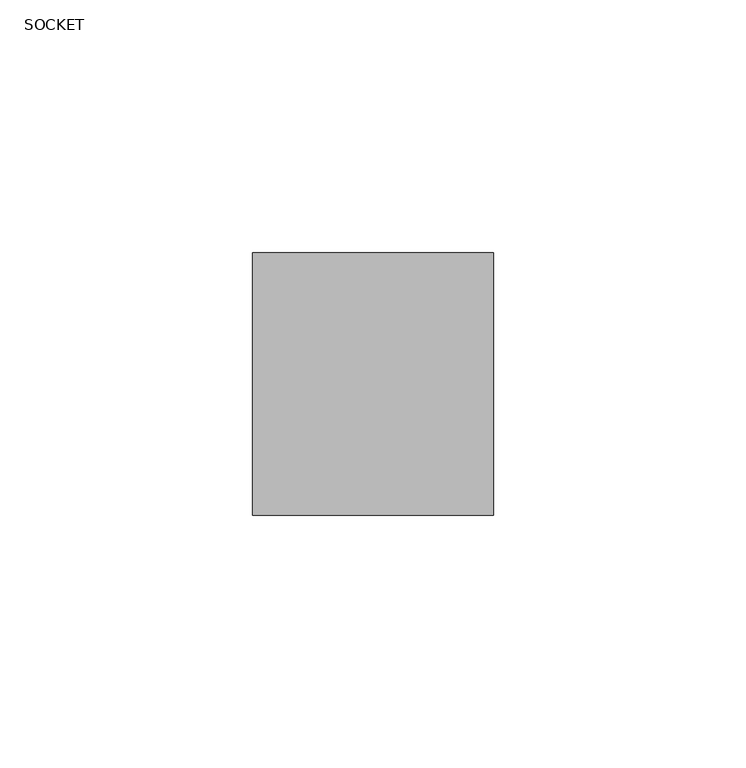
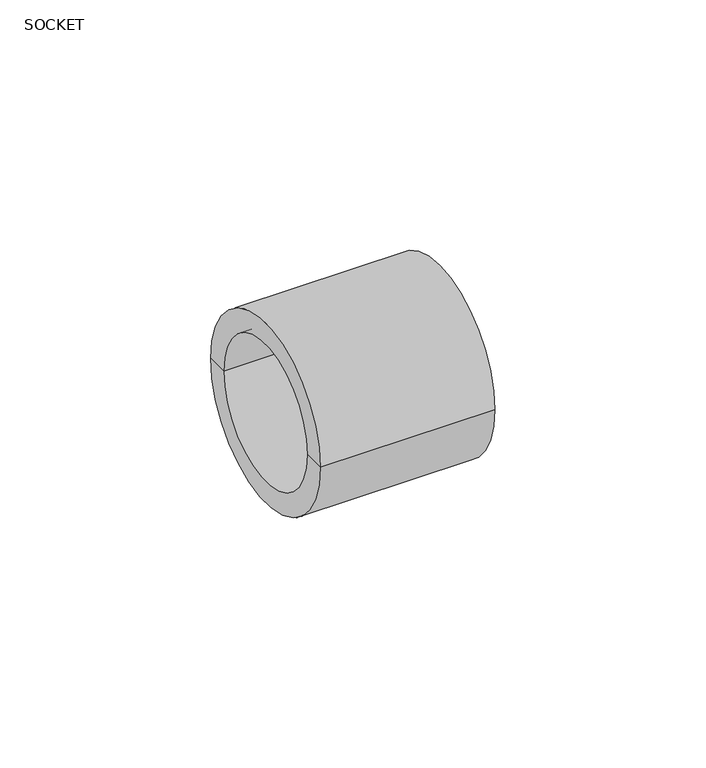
"""IFC4 building model written with IfcOpenShell, lengths in millimetres: pipe fitting geometry, Aquatherm - Coupling Socket : SOCKET."""

from ifc_helpers import new_model, si_unit, frame, origin, place, context, project, spatial, polyline, circle_curve, source, transform, mapped, element, save
from ifc_brep_helpers import plane_surface, cylinder_surface, revolved_surface, advanced_brep


def socket_037de072(model_context):
    return source(origin(), model_context, "Body", "AdvancedBrep", [
        advanced_brep(
        [(-23.876, -19.939, 0.0), (-23.876, 19.939, 0.0), (-23.876, 26.035, 0.0), (-23.876, -26.035, 0.0), (-3.302, -19.939, 0.0), (-3.302, 19.939, 0.0), (-3.302, -13.335, 0.0), (-3.302, 13.335, 0.0), (3.302, -13.335, 0.0), (3.302, 13.335, 0.0), (3.302, -19.939, 0.0), (3.302, 19.939, 0.0), (23.876, -19.939, 0.0), (23.876, 19.939, 0.0), (23.876, -26.035, 0.0), (23.876, 26.035, 0.0)],
        [
            (0, 1, circle_curve(frame((-23.876, 0.0, 0.0), z_axis=(1.0, 0.0, 0.0), x_axis=(0.0, 1.0, 0.0)), 19.939)),
            (1, 2),
            (2, 3, circle_curve(frame((-23.876, 0.0, 0.0), z_axis=(-1.0, 0.0, 0.0), x_axis=(0.0, 1.0, 0.0)), 26.035)),
            (3, 0),
            (1, 0, circle_curve(frame((-23.876, 0.0, 0.0), z_axis=(1.0, 0.0, 0.0), x_axis=(0.0, 1.0, 0.0)), 19.939)),
            (3, 2, circle_curve(frame((-23.876, 0.0, 0.0), z_axis=(-1.0, 0.0, 0.0), x_axis=(0.0, 1.0, 0.0)), 26.035)),
            (4, 5, circle_curve(frame((-3.302, 0.0, 0.0), z_axis=(1.0, 0.0, 0.0), x_axis=(0.0, 1.0, 0.0)), 19.939)),
            (5, 1),
            (0, 4),
            (5, 4, circle_curve(frame((-3.302, 0.0, 0.0), z_axis=(1.0, 0.0, 0.0), x_axis=(0.0, 1.0, 0.0)), 19.939)),
            (6, 7, circle_curve(frame((-3.302, 0.0, 0.0), z_axis=(1.0, 0.0, 0.0), x_axis=(0.0, 1.0, 0.0)), 13.335)),
            (7, 5),
            (4, 6),
            (7, 6, circle_curve(frame((-3.302, 0.0, 0.0), z_axis=(1.0, 0.0, 0.0), x_axis=(0.0, 1.0, 0.0)), 13.335)),
            (8, 9, circle_curve(frame((3.302, 0.0, 0.0), z_axis=(1.0, 0.0, 0.0), x_axis=(0.0, 1.0, 0.0)), 13.335)),
            (9, 7),
            (6, 8),
            (9, 8, circle_curve(frame((3.302, 0.0, 0.0), z_axis=(1.0, 0.0, 0.0), x_axis=(0.0, 1.0, 0.0)), 13.335)),
            (10, 11, circle_curve(frame((3.302, 0.0, 0.0), z_axis=(1.0, 0.0, 0.0), x_axis=(0.0, 1.0, 0.0)), 19.939)),
            (11, 9),
            (8, 10),
            (11, 10, circle_curve(frame((3.302, 0.0, 0.0), z_axis=(1.0, 0.0, 0.0), x_axis=(0.0, 1.0, 0.0)), 19.939)),
            (12, 13, circle_curve(frame((23.876, 0.0, 0.0), z_axis=(1.0, 0.0, 0.0), x_axis=(0.0, 1.0, 0.0)), 19.939)),
            (13, 11),
            (10, 12),
            (13, 12, circle_curve(frame((23.876, 0.0, 0.0), z_axis=(1.0, 0.0, 0.0), x_axis=(0.0, 1.0, 0.0)), 19.939)),
            (14, 15, circle_curve(frame((23.876, 0.0, 0.0), z_axis=(1.0, 0.0, 0.0), x_axis=(0.0, 1.0, 0.0)), 26.035)),
            (15, 13),
            (12, 14),
            (15, 14, circle_curve(frame((23.876, 0.0, 0.0), z_axis=(1.0, 0.0, 0.0), x_axis=(0.0, 1.0, 0.0)), 26.035)),
            (2, 15),
            (14, 3),
        ],
        [
            plane_surface(frame((-23.876, 0.0, 0.0), z_axis=(-1.0, 0.0, 0.0), x_axis=(0.0, 1.0, 0.0))),
            revolved_surface(polyline([(-23.876, 19.939, 0.0), (-3.3019999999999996, 19.939, 0.0)]), (-40.1744022, 0.0, 0.0), (-1.0, 0.0, 0.0)),
            plane_surface(frame((-3.302, 0.0, 0.0), z_axis=(-1.0, 0.0, 0.0), x_axis=(0.0, 1.0, 0.0))),
            revolved_surface(polyline([(-3.3019999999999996, 13.335, 0.0), (3.3019999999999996, 13.335, 0.0)]), (-40.1744022, 0.0, 0.0), (-1.0, 0.0, 0.0)),
            plane_surface(frame((3.302, 0.0, 0.0), z_axis=(1.0, 0.0, 0.0), x_axis=(0.0, 1.0, 0.0))),
            revolved_surface(polyline([(3.3019999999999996, 19.939, 0.0), (23.876000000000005, 19.939, 0.0)]), (-40.1744022, 0.0, 0.0), (-1.0, 0.0, 0.0)),
            plane_surface(frame((23.876, 0.0, 0.0), z_axis=(1.0, 0.0, 0.0), x_axis=(0.0, 1.0, 0.0))),
            cylinder_surface(frame((-40.1744022, 0.0, 0.0), z_axis=(-1.0, 0.0, 0.0), x_axis=(0.0, 1.0, 0.0)), 26.035),
        ],
        [
            (0, [[1, 2, 3, 4]]),
            (0, [[5, -4, 6, -2]]),
            (1, [[7, 8, -1, 9]]),
            (1, [[10, -9, -5, -8]]),
            (2, [[11, 12, -7, 13]]),
            (2, [[14, -13, -10, -12]]),
            (3, [[15, 16, -11, 17]]),
            (3, [[18, -17, -14, -16]]),
            (4, [[19, 20, -15, 21]]),
            (4, [[22, -21, -18, -20]]),
            (5, [[23, 24, -19, 25]]),
            (5, [[26, -25, -22, -24]]),
            (6, [[27, 28, -23, 29]]),
            (6, [[30, -29, -26, -28]]),
            (7, [[-3, 31, -27, 32]]),
            (7, [[-6, -32, -30, -31]]),
        ],
    ),
    ])


if __name__ == "__main__":
    model = new_model("IFC4")
    model_context = context("Model", 3, world=origin())
    ifc_project = project(units=[si_unit("LENGTHUNIT", "METRE", prefix="MILLI")], contexts=[model_context])
    site = spatial("IfcSite", under=ifc_project)
    building = spatial("IfcBuilding", under=site)
    placement = place(None, origin())
    ifc_socket_shape = socket_037de072(model_context)
    element("IfcPipeFitting", 1, ObjectType="Aquatherm - Coupling Socket : SOCKET", at=placement, inside=building, context=model_context, shape_type="MappedRepresentation", body=[
        mapped(ifc_socket_shape, transform((0.0, 0.0, 0.0), x_axis=(1.0, 0.0, 0.0), y_axis=(0.0, 1.0, 0.0), z_axis=(0.0, 0.0, 1.0))),
    ])
    save(model, "model.ifc")
